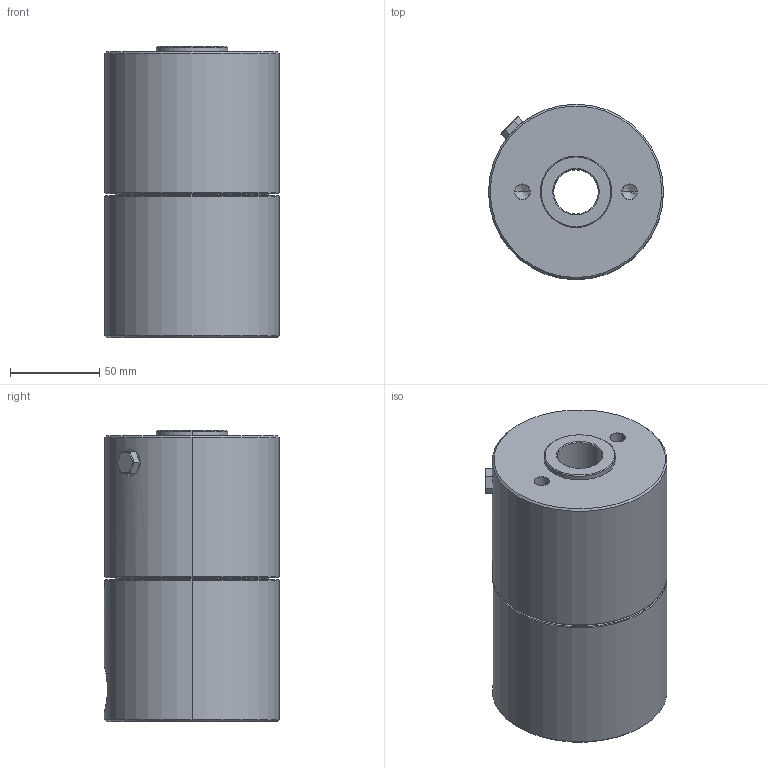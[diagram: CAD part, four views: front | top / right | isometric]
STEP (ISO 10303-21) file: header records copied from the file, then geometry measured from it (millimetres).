
FILE_DESCRIPTION (( 'STEP AP203' ), '1' );
FILE_NAME ('4610-513.STEP', '2016-01-29T10:16:08', ( '' ), ( '' ), 'SwSTEP 2.0', 'SolidWorks 2015', '' );
FILE_SCHEMA (( 'CONFIG_CONTROL_DESIGN' ));
Length unit declared in the file: millimetre
Products named in the file (1): 4610-513
Bounding box: 98 x 98 x 163 mm (x, y, z)
Volume: 1121967.6 mm3; surface area: 81961.7 mm2
Topology: 1 solids, 2 shells, 71 faces, 152 edges, 86 vertices
Faces by surface type: cone 26, plane 21, cylinder 20, torus 4
Entity records: 2097 total; most frequent: CARTESIAN_POINT 486, DIRECTION 348, ORIENTED_EDGE 288, EDGE_CURVE 144, AXIS2_PLACEMENT_3D 136, VERTEX_POINT 86, EDGE_LOOP 82, LINE 76
